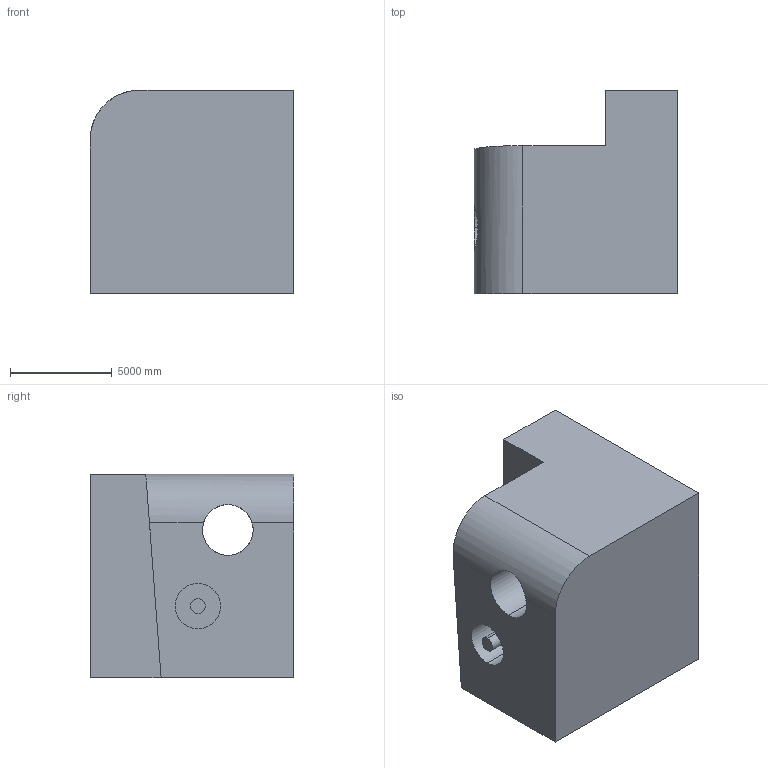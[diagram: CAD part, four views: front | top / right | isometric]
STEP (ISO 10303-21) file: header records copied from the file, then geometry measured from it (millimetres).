
FILE_DESCRIPTION (( 'STEP AP203' ), '1' );
FILE_NAME ('417.STEP', '2022-07-29T11:11:50', ( 'user' ), ( '' ), 'SwSTEP 2.0', 'SolidWorks 2021', '' );
FILE_SCHEMA (( 'CONFIG_CONTROL_DESIGN' ));
Length unit declared in the file: centimetre
Products named in the file (1): 417
Bounding box: 10000 x 10000 x 10000 mm (x, y, z)
Volume: 721684364041.3 mm3; surface area: 653866676.7 mm2
Topology: 1 solids, 1 shells, 19 faces, 48 edges, 32 vertices
Faces by surface type: plane 12, cylinder 7
Entity records: 754 total; most frequent: CARTESIAN_POINT 205, DIRECTION 98, ORIENTED_EDGE 96, EDGE_CURVE 48, AXIS2_PLACEMENT_3D 33, LINE 32, VECTOR 32, VERTEX_POINT 32
